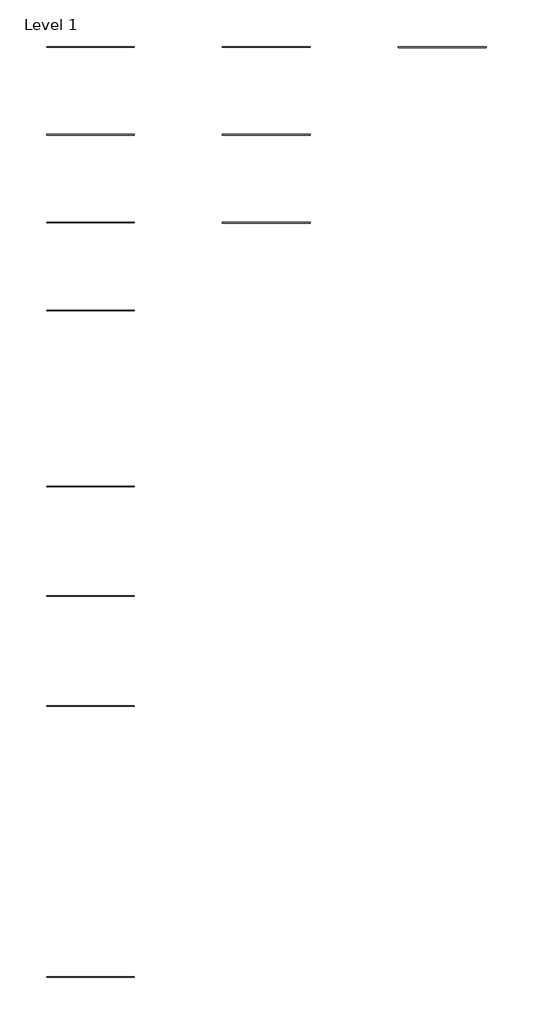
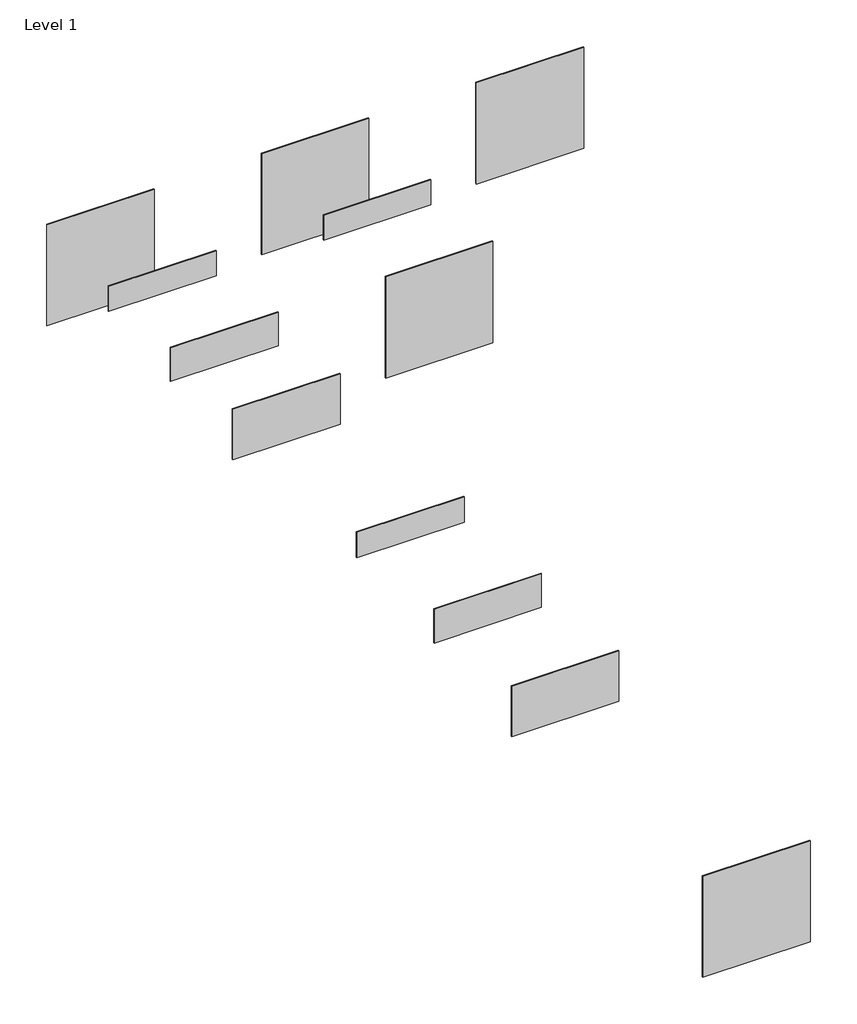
# One storey: 12 proxies.
"""IFC4 building model written with IfcOpenShell, lengths in millimetres."""

from ifc_helpers import new_model, si_unit, origin, place, context, project, spatial, transform, mapped, element, save
from components import generic_models_9e8e3204, generic_models_447ac8c6, generic_models_3d542e1a, generic_models_ff26d8ec, proxy_190_series_4x8_cedar_texture_soffit_strand_47_88_190_38c40540, proxy_38_series_4x8_cedar_texture_soffit_strand_47_88_38_12f310ea, proxy_76_series_4x8_cedar_texture_soffit_strand_47_88_76_78291a79, proxy_76_series_cedar_texture_soffit_fiber_47_94_76_series_95692760

model = new_model("IFC4")

# Units and contexts
model_context = context("Model", 3, world=origin())
ifc_project = project(units=[si_unit("LENGTHUNIT", "METRE", prefix="MILLI")], contexts=[model_context])

# Site, building, storey
site = spatial("IfcSite", under=ifc_project)
building = spatial("IfcBuilding", under=site)
storey = spatial("IfcBuildingStorey", under=building, Name="Level 1", Elevation=0.0)

# Proxies
placement = place(None, origin())
generic_models_shape = generic_models_9e8e3204(model_context)
element("IfcBuildingElementProxy", 1, Name="76 Series Cedar Texture Soffit - Cut-To-Width (Strand) - 11.94 : 76 Series Cedar Texture Soffit – Cut-To-Width (Strand) - 11.94", ObjectType="76 Series Cedar Texture Soffit - Cut-To-Width (Strand) - 11.94 : 76 Series Cedar Texture Soffit – Cut-To-Width (Strand) - 11.94", at=placement, inside=storey, context=model_context, shape_type="MappedRepresentation", body=[
    mapped(generic_models_shape, transform((-6764.8468949, 4195.3434349, 0.0), x_axis=(1.0, 0.0, 0.0), y_axis=(0.0, 1.0, 0.0), z_axis=(0.0, 0.0, 1.0))),
])
generic_models_2_shape = generic_models_447ac8c6(model_context)
element("IfcBuildingElementProxy", 2, Name="38 Series Vented Cedar Texture Soffit - Cut-To-Width (Strand) - 23.94 : 38 Series Vented Cedar Texture Soffit – Cut-To-Width (Strand) - 23.94", ObjectType="38 Series Vented Cedar Texture Soffit - Cut-To-Width (Strand) - 23.94 : 38 Series Vented Cedar Texture Soffit – Cut-To-Width (Strand) - 23.94", at=placement, inside=storey, context=model_context, shape_type="MappedRepresentation", body=[
    mapped(generic_models_2_shape, transform((-9203.2468949, -3729.4565651, 0.0), x_axis=(1.0, 0.0, 0.0), y_axis=(0.0, 1.0, 0.0), z_axis=(0.0, 0.0, 1.0))),
])
generic_models_3_shape = generic_models_3d542e1a(model_context)
element("IfcBuildingElementProxy", 3, Name="38 Series Vented Cedar Texture Soffit - Cut-To-Width (Strand) - 15.94 : 38 Series Vented Cedar Texture Soffit – Cut-To-Width (Strand) - 15.94", ObjectType="38 Series Vented Cedar Texture Soffit - Cut-To-Width (Strand) - 15.94 : 38 Series Vented Cedar Texture Soffit – Cut-To-Width (Strand) - 15.94", at=placement, inside=storey, context=model_context, shape_type="MappedRepresentation", body=[
    mapped(generic_models_3_shape, transform((-9203.2468949, -2205.4565651, 0.0), x_axis=(1.0, 0.0, 0.0), y_axis=(0.0, 1.0, 0.0), z_axis=(0.0, 0.0, 1.0))),
])
generic_models_4_shape = generic_models_ff26d8ec(model_context)
element("IfcBuildingElementProxy", 4, Name="38 Series Vented Cedar Texture Soffit - Cut-To-Width (Strand) - 11.94 : 38 Series Vented Cedar Texture Soffit – Cut-To-Width (Strand) - 11.94", ObjectType="38 Series Vented Cedar Texture Soffit - Cut-To-Width (Strand) - 11.94 : 38 Series Vented Cedar Texture Soffit – Cut-To-Width (Strand) - 11.94", at=placement, inside=storey, context=model_context, shape_type="MappedRepresentation", body=[
    mapped(generic_models_4_shape, transform((-9203.2468949, -681.4565651, 0.0), x_axis=(1.0, 0.0, 0.0), y_axis=(0.0, 1.0, 0.0), z_axis=(0.0, 0.0, 1.0))),
])
element("IfcBuildingElementProxy", 5, Name="38 Series Cedar Texture Soffit - Cut-To-Width (Strand) - 23.94 : 38 Series Cedar Texture Soffit – Cut-To-Width (Strand) - 23.94", ObjectType="38 Series Cedar Texture Soffit - Cut-To-Width (Strand) - 23.94 : 38 Series Cedar Texture Soffit – Cut-To-Width (Strand) - 23.94", at=placement, inside=storey, context=model_context, shape_type="MappedRepresentation", body=[
    mapped(generic_models_2_shape, transform((-9203.2468949, 1756.9434349, 0.0), x_axis=(1.0, 0.0, 0.0), y_axis=(0.0, 1.0, 0.0), z_axis=(0.0, 0.0, 1.0))),
])
element("IfcBuildingElementProxy", 6, Name="38 Series Cedar Texture Soffit - Cut-To-Width (Strand) - 15.94 : 38 Series Cedar Texture Soffit – Cut-To-Width (Strand) - 15.94", ObjectType="38 Series Cedar Texture Soffit - Cut-To-Width (Strand) - 15.94 : 38 Series Cedar Texture Soffit – Cut-To-Width (Strand) - 15.94", at=placement, inside=storey, context=model_context, shape_type="MappedRepresentation", body=[
    mapped(generic_models_3_shape, transform((-9203.2468949, 2976.1434349, 0.0), x_axis=(1.0, 0.0, 0.0), y_axis=(0.0, 1.0, 0.0), z_axis=(0.0, 0.0, 1.0))),
])
element("IfcBuildingElementProxy", 7, Name="38 Series Cedar Texture Soffit - Cut-To-Width (Strand) - 11.94 : 38 Series Cedar Texture Soffit – Cut-To-Width (Strand) - 11.94", ObjectType="38 Series Cedar Texture Soffit - Cut-To-Width (Strand) - 11.94 : 38 Series Cedar Texture Soffit – Cut-To-Width (Strand) - 11.94", at=placement, inside=storey, context=model_context, shape_type="MappedRepresentation", body=[
    mapped(generic_models_4_shape, transform((-9203.2468949, 4195.3434349, 0.0), x_axis=(1.0, 0.0, 0.0), y_axis=(0.0, 1.0, 0.0), z_axis=(0.0, 0.0, 1.0))),
])
proxy_190_series_4x8_cedar_texture_soffit_strand_47_88_190_shape = proxy_190_series_4x8_cedar_texture_soffit_strand_47_88_190_38c40540(model_context)
element("IfcBuildingElementProxy", 8, Name="190 Series 4x8 Cedar Texture Soffit (Strand) - 47.88 : 190 Series 4x8 Cedar Texture Soffit (Strand) - 47.88", ObjectType="190 Series 4x8 Cedar Texture Soffit (Strand) - 47.88 : 190 Series 4x8 Cedar Texture Soffit (Strand) - 47.88", at=placement, inside=storey, context=model_context, shape_type="MappedRepresentation", body=[
    mapped(proxy_190_series_4x8_cedar_texture_soffit_strand_47_88_190_shape, transform((-4326.4468949, 5414.5434349, 0.0), x_axis=(1.0, 0.0, 0.0), y_axis=(0.0, 1.0, 0.0), z_axis=(0.0, 0.0, 1.0))),
])
proxy_38_series_4x8_cedar_texture_soffit_strand_47_88_38_shape = proxy_38_series_4x8_cedar_texture_soffit_strand_47_88_38_12f310ea(model_context)
element("IfcBuildingElementProxy", 9, Name="38 Series 4x8 Cedar Texture Soffit (Strand) - 47.88 : 38 Series 4x8 Cedar Texture Soffit (Strand) - 47.88", ObjectType="38 Series 4x8 Cedar Texture Soffit (Strand) - 47.88 : 38 Series 4x8 Cedar Texture Soffit (Strand) - 47.88", at=placement, inside=storey, context=model_context, shape_type="MappedRepresentation", body=[
    mapped(proxy_38_series_4x8_cedar_texture_soffit_strand_47_88_38_shape, transform((-9203.2468949, 5414.5434349, 0.0), x_axis=(1.0, 0.0, 0.0), y_axis=(0.0, 1.0, 0.0), z_axis=(0.0, 0.0, 1.0))),
])
proxy_76_series_4x8_cedar_texture_soffit_strand_47_88_76_shape = proxy_76_series_4x8_cedar_texture_soffit_strand_47_88_76_78291a79(model_context)
element("IfcBuildingElementProxy", 10, Name="76 Series 4x8 Cedar Texture Soffit (Strand) - 47.88 : 76 Series 4x8 Cedar Texture Soffit (Strand) - 47.88", ObjectType="76 Series 4x8 Cedar Texture Soffit (Strand) - 47.88 : 76 Series 4x8 Cedar Texture Soffit (Strand) - 47.88", at=placement, inside=storey, context=model_context, shape_type="MappedRepresentation", body=[
    mapped(proxy_76_series_4x8_cedar_texture_soffit_strand_47_88_76_shape, transform((-6764.8468949, 5414.5434349, 0.0), x_axis=(1.0, 0.0, 0.0), y_axis=(0.0, 1.0, 0.0), z_axis=(0.0, 0.0, 1.0))),
])
proxy_76_series_cedar_texture_soffit_fiber_47_94_76_series_shape = proxy_76_series_cedar_texture_soffit_fiber_47_94_76_series_95692760(model_context)
element("IfcBuildingElementProxy", 11, Name="76 Series Cedar Texture Soffit (Fiber) - 47.94 : 76 Series Cedar Texture Soffit (Fiber) - 47.94", ObjectType="76 Series Cedar Texture Soffit (Fiber) - 47.94 : 76 Series Cedar Texture Soffit (Fiber) - 47.94", at=placement, inside=storey, context=model_context, shape_type="MappedRepresentation", body=[
    mapped(proxy_76_series_cedar_texture_soffit_fiber_47_94_76_series_shape, transform((-6764.8468949, 2976.1434349, 0.0), x_axis=(1.0, 0.0, 0.0), y_axis=(0.0, 1.0, 0.0), z_axis=(0.0, 0.0, 1.0))),
])
element("IfcBuildingElementProxy", 12, Name="76 Series Smooth Finish Sofft (Fiber) - 47.94 : 76 Series Smooth Finish Soffit (Fiber) - 47.94", ObjectType="76 Series Smooth Finish Sofft (Fiber) - 47.94 : 76 Series Smooth Finish Soffit (Fiber) - 47.94", at=placement, inside=storey, context=model_context, shape_type="MappedRepresentation", body=[
    mapped(proxy_76_series_cedar_texture_soffit_fiber_47_94_76_series_shape, transform((-9203.2468949, -7488.6565651, 0.0), x_axis=(1.0, 0.0, 0.0), y_axis=(0.0, 1.0, 0.0), z_axis=(0.0, 0.0, 1.0))),
])

save(model, "model.ifc")
